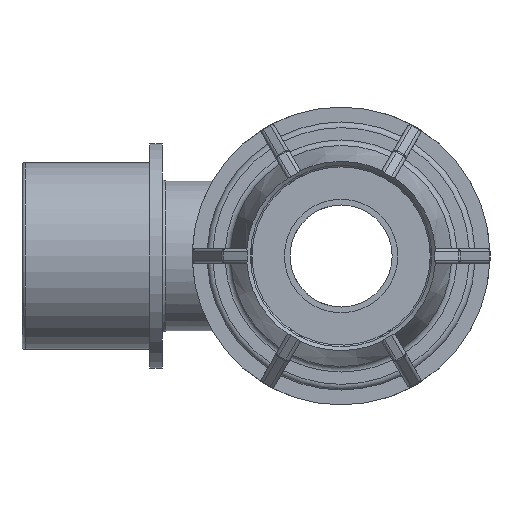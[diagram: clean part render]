
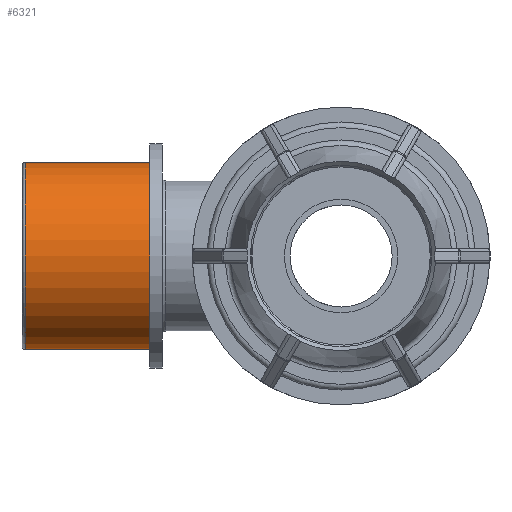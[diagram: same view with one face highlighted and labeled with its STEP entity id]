
A CAD part, left-side view. The second image highlights one B-rep face of the part: STEP entity #6321.
In plain terms, the highlighted cylindrical face has radius 13.22 mm (diameter 26.441 mm), a full revolution.
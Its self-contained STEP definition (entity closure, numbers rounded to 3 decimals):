
#1375=CIRCLE('',#7078,13.221);
#1377=CIRCLE('',#7081,13.221);
#1434=FACE_BOUND('',#2478,.T.);
#2030=FACE_OUTER_BOUND('',#2477,.T.);
#2477=EDGE_LOOP('',(#5776));
#2478=EDGE_LOOP('',(#5777));
#3031=VERTEX_POINT('',#12111);
#3033=VERTEX_POINT('',#12116);
#3949=EDGE_CURVE('',#3031,#3031,#1375,.T.);
#3951=EDGE_CURVE('',#3033,#3033,#1377,.T.);
#5776=ORIENTED_EDGE('',*,*,#3951,.T.);
#5777=ORIENTED_EDGE('',*,*,#3949,.F.);
#5913=CYLINDRICAL_SURFACE('',#7080,13.221);
#6321=ADVANCED_FACE('',(#2030,#1434),#5913,.T.);
#7078=AXIS2_PLACEMENT_3D('',#12112,#8949,#8950);
#7080=AXIS2_PLACEMENT_3D('',#12115,#8953,#8954);
#7081=AXIS2_PLACEMENT_3D('',#12117,#8955,#8956);
#8949=DIRECTION('center_axis',(0.,1.,0.));
#8950=DIRECTION('ref_axis',(1.,0.,0.));
#8953=DIRECTION('center_axis',(0.,1.,0.));
#8954=DIRECTION('ref_axis',(-1.,0.,0.));
#8955=DIRECTION('center_axis',(0.,1.,0.));
#8956=DIRECTION('ref_axis',(1.,0.,0.));
#12111=CARTESIAN_POINT('',(-13.221,44.52,0.));
#12112=CARTESIAN_POINT('Origin',(0.,44.52,0.));
#12115=CARTESIAN_POINT('Origin',(0.,36.,0.));
#12116=CARTESIAN_POINT('',(-13.221,27.,0.));
#12117=CARTESIAN_POINT('Origin',(0.,27.,0.));
